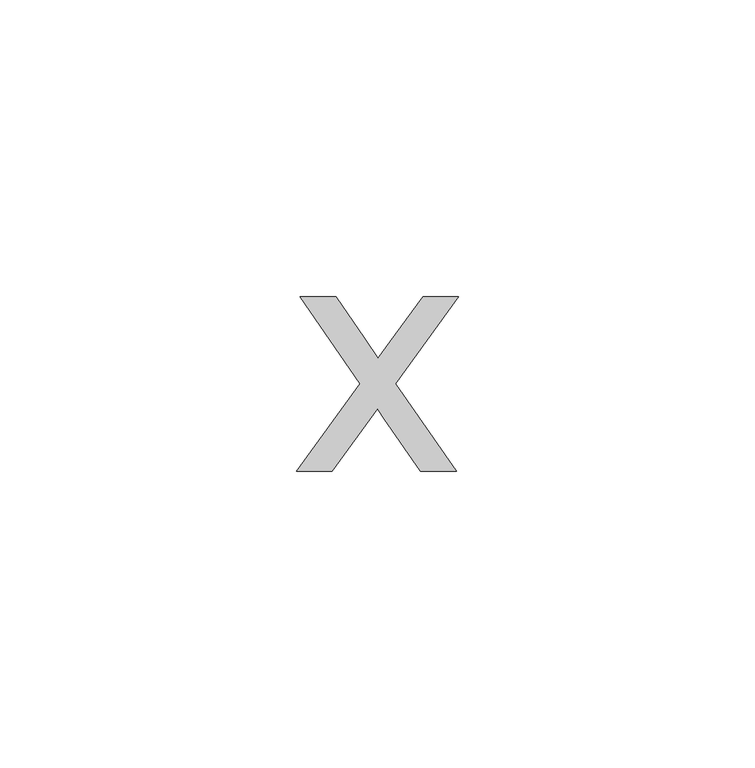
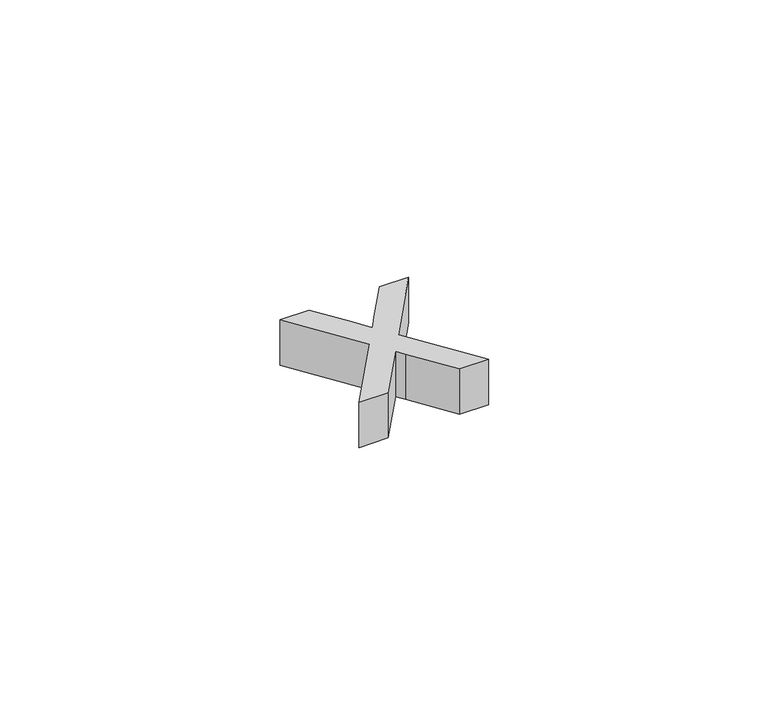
"""IFC4 building model written with IfcOpenShell, lengths in millimetres: pipe fitting geometry, NLRS_52_PIF_UN_HDPE weld_Akatherm : ringseal or non-welded."""

from ifc_helpers import new_model, si_unit, frame, origin, place, context, project, spatial, polyline, outline, extrude, source, transform, mapped, element, save


def pipe_fitting_c029aed5(model_context):
    return source(origin(), model_context, "Body", "SweptSolid", [
        extrude(outline(polyline([(30.9355442, -80.0), (41.6678883, -65.166998), (31.5633962, -50.4909589), (37.6064711, -50.4909589), (42.4821338, -57.5542932), (44.7580971, -60.8897566), (46.7299446, -58.1625248), (52.2825102, -50.4909589), (58.3255851, -50.4909589), (47.7109632, -65.166998), (57.9331776, -80.0), (51.8901027, -80.0), (45.7391157, -71.0825404), (44.6109443, -69.4540495), (36.9786192, -80.0), (30.9355442, -80.0)])), frame((0.0, 0.0, -15.0), z_axis=(0.0, 0.0, 1.0), x_axis=(1.0, 0.0, 0.0)), (0.0, 0.0, 1.0), 10.0),
    ])


if __name__ == "__main__":
    model = new_model("IFC4")
    model_context = context("Model", 3, world=origin())
    ifc_project = project(units=[si_unit("LENGTHUNIT", "METRE", prefix="MILLI")], contexts=[model_context])
    site = spatial("IfcSite", under=ifc_project)
    building = spatial("IfcBuilding", under=site)
    placement = place(None, origin())
    pipe_fitting_shape = pipe_fitting_c029aed5(model_context)
    element("IfcPipeFitting", 1, ObjectType="NLRS_52_PIF_UN_HDPE weld_Akatherm : ringseal or non-welded", at=placement, inside=building, context=model_context, shape_type="MappedRepresentation", body=[
        mapped(pipe_fitting_shape, transform((0.0, 0.0, 0.0), x_axis=(1.0, 0.0, 0.0), y_axis=(0.0, 1.0, 0.0), z_axis=(0.0, 0.0, 1.0))),
    ])
    save(model, "model.ifc")
